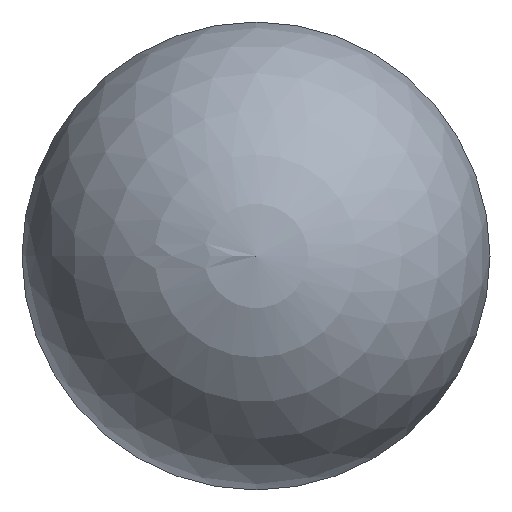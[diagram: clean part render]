
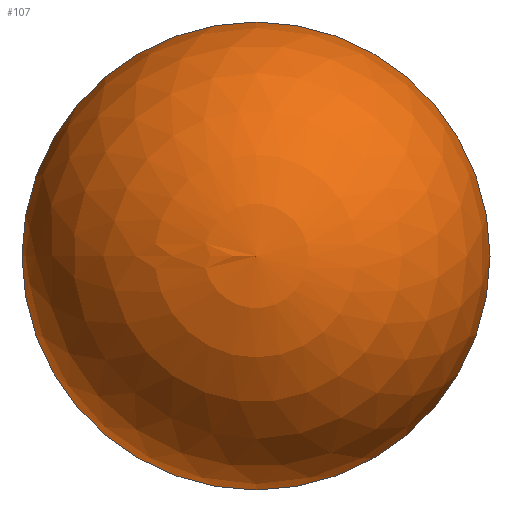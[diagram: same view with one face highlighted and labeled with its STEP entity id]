
A CAD part, left-side view. The second image highlights one B-rep face of the part: STEP entity #107.
In plain terms, the highlighted spherical face has radius 2 mm.
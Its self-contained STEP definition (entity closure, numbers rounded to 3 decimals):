
#95=SPHERICAL_SURFACE('',#187,2.);
#101=FACE_OUTER_BOUND('',#134,.T.);
#107=ADVANCED_FACE('',(#101),#95,.T.);
#134=EDGE_LOOP('',(#148));
#148=ORIENTED_EDGE('',*,*,#166,.T.);
#159=VERTEX_POINT('',#241);
#166=EDGE_CURVE('',#159,#159,#173,.T.);
#173=CIRCLE('',#186,2.);
#186=AXIS2_PLACEMENT_3D('',#240,#214,#215);
#187=AXIS2_PLACEMENT_3D('',#242,#216,#217);
#214=DIRECTION('',(-1.,0.,0.));
#215=DIRECTION('',(0.,0.,1.));
#216=DIRECTION('',(-1.,0.,0.));
#217=DIRECTION('',(0.,1.,0.));
#240=CARTESIAN_POINT('',(7895.912,6103.288,0.));
#241=CARTESIAN_POINT('',(7895.912,6103.288,2.));
#242=CARTESIAN_POINT('',(7895.912,6103.288,0.));
